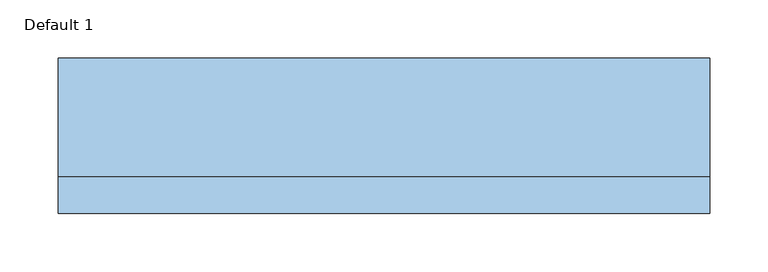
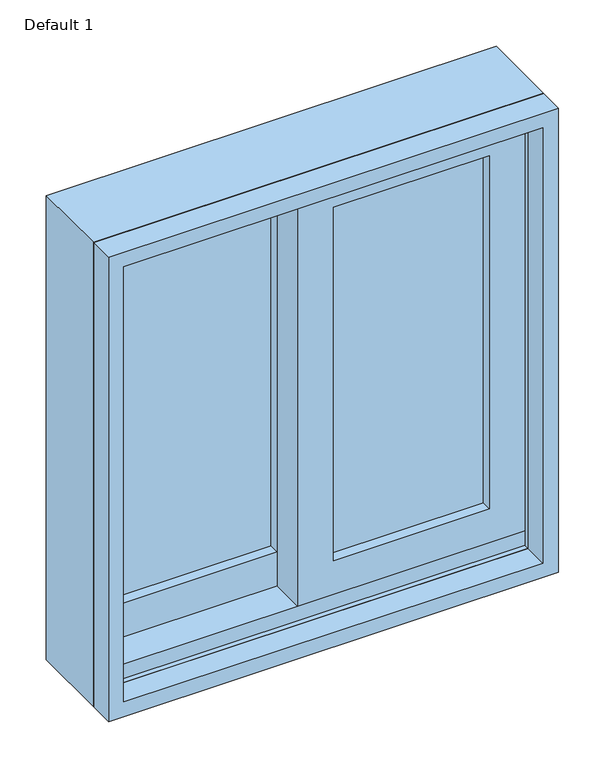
"""IFC4 building model written with IfcOpenShell, lengths in millimetres: window geometry, Planitar-Sliding-Double : Default 1."""

from ifc_helpers import new_model, si_unit, frame, origin, place, context, project, spatial, polyline, outline, extrude, faceted_brep, source, transform, mapped, element, save


def default_1_493c007d(model_context):
    return source(origin(), model_context, "Body", "SolidModel", [
        extrude(outline(polyline([(933.45, -260.35), (933.45, 22.225), (1504.95, 22.225), (1504.95, -260.35), (933.45, -260.35)]), holes=[polyline([(1460.5, -22.225), (996.95, -22.225), (996.95, -215.9), (1460.5, -215.9), (1460.5, -22.225)])]), frame((0.0, 21.59, 0.0), z_axis=(0.0, 1.0, 0.0), x_axis=(0.0, 0.0, 1.0)), (0.0, 0.0, 1.0), 44.45),
        extrude(outline(polyline([(952.5, 260.35), (1504.95, 260.35), (1504.95, -22.225), (952.5, -22.225), (952.5, 260.35)]), holes=[polyline([(996.95, 22.225), (1460.5, 22.225), (1460.5, 215.9), (996.95, 215.9), (996.95, 22.225)])]), frame((0.0, -22.86, 0.0), z_axis=(0.0, 1.0, 0.0), x_axis=(0.0, 0.0, 1.0)), (0.0, 0.0, 1.0), 44.45),
        faceted_brep([(-279.4, -29.21, 914.4), (-279.4, 72.39, 914.4), (279.4, 72.39, 914.4), (279.4, -29.21, 914.4), (-238.4778905, 72.39, 1483.0778905), (-238.4778905, 66.04, 1483.0778905), (-238.4778905, 66.04, 933.45), (-238.4778905, 72.39, 933.45), (238.4778905, 66.04, 1483.0778905), (238.4778905, 66.04, 933.45), (260.35, 66.04, 933.45), (260.35, 66.04, 1504.95), (-260.35, 66.04, 1504.95), (-260.35, 66.04, 933.45), (-260.35, -29.21, 1504.95), (-260.35, -29.21, 933.45), (-260.35, -22.86, 933.45), (-260.35, -22.86, 952.5), (-260.35, 21.59, 952.5), (-260.35, 21.59, 933.45), (279.4, -29.21, 1524.0), (-279.4, -29.21, 1524.0), (260.35, -29.21, 1504.95), (260.35, -29.21, 933.45), (-279.4, 72.39, 1524.0), (279.4, 72.39, 1524.0), (238.4778905, 72.39, 933.45), (238.4778905, 72.39, 1483.0778905), (260.35, 21.59, 933.45), (260.35, 21.59, 952.5), (260.35, -22.86, 952.5), (260.35, -22.86, 933.45)], [[[0, 1, 2, 3]], [[4, 5, 6, 7]], [[5, 8, 9, 10, 11, 12, 13, 6]], [[12, 14, 15, 16, 17, 18, 19, 13]], [[0, 3, 20, 21], [22, 23, 15, 14]], [[24, 1, 0, 21]], [[2, 1, 24, 25], [4, 7, 26, 27]], [[5, 4, 27, 8]], [[12, 11, 22, 14]], [[21, 20, 25, 24]], [[8, 27, 26, 9]], [[22, 11, 10, 28, 29, 30, 31, 23]], [[20, 3, 2, 25]], [[26, 7, 6, 13, 19, 28, 10, 9]], [[28, 19, 18, 29]], [[29, 18, 17, 30]], [[30, 17, 16, 31]], [[15, 23, 31, 16]]]),
        extrude(outline(polyline([(1524.0, -279.4), (914.4, -279.4), (914.4, 279.4), (1524.0, 279.4), (1524.0, -279.4)]), holes=[polyline([(1504.95, 260.35), (933.45, 260.35), (933.45, -260.35), (1504.95, -260.35), (1504.95, 260.35)])]), frame((0.0, -60.96, 0.0), z_axis=(0.0, 1.0, 0.0), x_axis=(0.0, 0.0, 1.0)), (0.0, 0.0, 1.0), 31.75),
        extrude(outline(polyline([(215.9, 8.89), (215.9, 2.54), (22.225, 2.54), (22.225, 8.89), (215.9, 8.89)])), frame((0.0, 0.0, 996.95), z_axis=(0.0, 0.0, 1.0), x_axis=(1.0, 0.0, 0.0)), (0.0, 0.0, 1.0), 463.55),
        extrude(outline(polyline([(215.9, -3.81), (215.9, -10.16), (22.225, -10.16), (22.225, -3.81), (215.9, -3.81)])), frame((0.0, 0.0, 996.95), z_axis=(0.0, 0.0, 1.0), x_axis=(1.0, 0.0, 0.0)), (0.0, 0.0, 1.0), 463.55),
        extrude(outline(polyline([(-22.225, 53.34), (-22.225, 46.99), (-215.9, 46.99), (-215.9, 53.34), (-22.225, 53.34)])), frame((0.0, 0.0, 996.95), z_axis=(0.0, 0.0, 1.0), x_axis=(1.0, 0.0, 0.0)), (0.0, 0.0, 1.0), 463.55),
        extrude(outline(polyline([(-22.225, 40.64), (-22.225, 34.29), (-215.9, 34.29), (-215.9, 40.64), (-22.225, 40.64)])), frame((0.0, 0.0, 996.95), z_axis=(0.0, 0.0, 1.0), x_axis=(1.0, 0.0, 0.0)), (0.0, 0.0, 1.0), 463.55),
    ])


if __name__ == "__main__":
    model = new_model("IFC4")
    model_context = context("Model", 3, world=origin())
    ifc_project = project(units=[si_unit("LENGTHUNIT", "METRE", prefix="MILLI")], contexts=[model_context])
    site = spatial("IfcSite", under=ifc_project)
    building = spatial("IfcBuilding", under=site)
    placement = place(None, origin())
    default_1_shape = default_1_493c007d(model_context)
    element("IfcWindow", 1, ObjectType="Planitar-Sliding-Double : Default 1", at=placement, inside=building, context=model_context, shape_type="MappedRepresentation", body=[
        mapped(default_1_shape, transform((0.0, 0.0, 0.0), x_axis=(1.0, 0.0, 0.0), y_axis=(0.0, 1.0, 0.0), z_axis=(0.0, 0.0, 1.0))),
    ])
    save(model, "model.ifc")
